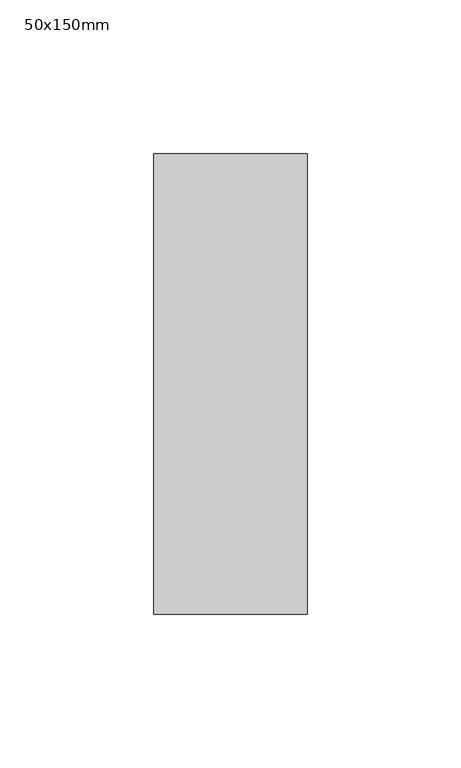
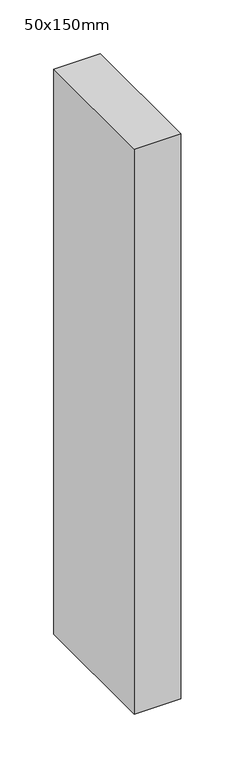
"""IFC4 building model written with IfcOpenShell, lengths in millimetres: member geometry, 長方形マリオン : 50x150mm."""

import ifcopenshell
import ifcopenshell.guid

model = None  # the IFC model being written
_history = None  # IfcOwnerHistory: only IFC2X3 demands one
_inside = {}  # id of a spatial element -> (the spatial element, [elements in it])
_under = {}  # id of a project, library or spatial element -> (it, [spatial elements below it])
_declared = {}  # id of a project -> (the project, [libraries it declares])
_typed = {}  # id of a type object -> (the type object, [elements of that type])
_made_of = {}  # id of a material, layer set ... -> (it, [elements and type objects made of it])


def new_model(schema):
    """Start an empty IFC model of exactly this schema.

    Asked for "IFC4X3", IfcOpenShell would pick the latest addendum, in which some entities
    have other attributes; the version numbers below select the first issue.
    IFC2X3 requires an IfcOwnerHistory on every rooted entity: one is made here for all.
    """
    global model, _history
    if schema == "IFC4X3":
        model = ifcopenshell.file(schema_version=(4, 3, 0, 0))
    else:
        model = ifcopenshell.file(schema=schema)
    _inside.clear()
    _under.clear()
    _declared.clear()
    _typed.clear()
    _made_of.clear()
    _history = None
    if model.schema == "IFC2X3":
        org = make("IfcOrganization", Name="unknown")
        user = make(
            "IfcPersonAndOrganization",
            ThePerson=make("IfcPerson", FamilyName="unknown"),
            TheOrganization=org,
        )
        app = make(
            "IfcApplication",
            ApplicationDeveloper=org,
            Version="unknown",
            ApplicationFullName="unknown",
            ApplicationIdentifier="unknown",
        )
        _history = make(
            "IfcOwnerHistory",
            OwningUser=user,
            OwningApplication=app,
            ChangeAction="ADDED",
            CreationDate=0,
        )
    return model


def make(cls, **values):
    """One entity of the class cls with the attributes given. An attribute that is None is left unset."""
    return model.create_entity(
        cls, **{name: value for name, value in values.items() if value is not None}
    )


def rooted(cls, **values):
    """An entity with a GlobalId (a new one), such as an element, a storey or a relation."""
    return make(cls, GlobalId=ifcopenshell.guid.new(), OwnerHistory=_history, **values)


def si_unit(unit_type, name, prefix=None):
    """IfcSIUnit, for example si_unit("LENGTHUNIT", "METRE", prefix="MILLI")."""
    return make("IfcSIUnit", UnitType=unit_type, Prefix=prefix, Name=name)


def assignment(units):
    """IfcUnitAssignment: the units of a project."""
    return None if units is None else make("IfcUnitAssignment", Units=units)


def point(xyz):
    """IfcCartesianPoint."""
    return None if xyz is None else make("IfcCartesianPoint", Coordinates=xyz)


def direction(xyz):
    """IfcDirection."""
    return None if xyz is None else make("IfcDirection", DirectionRatios=xyz)


def frame(location, z_axis=None, x_axis=None):
    """IfcAxis2Placement3D, a coordinate frame: its origin and axes. An axis left out is left unset."""
    return make(
        "IfcAxis2Placement3D",
        Location=point(location),
        Axis=direction(z_axis),
        RefDirection=direction(x_axis),
    )


def origin():
    """The frame at (0, 0, 0) with its axes left unset."""
    return frame((0.0, 0.0, 0.0))


def place(relative_to, where):
    """IfcLocalPlacement: puts the frame where relative to a parent placement (None: the world)."""
    return make(
        "IfcLocalPlacement", PlacementRelTo=relative_to, RelativePlacement=where
    )


def context(
    kind, dimensions, precision=None, world=None, true_north=None, identifier=None
):
    """IfcGeometricRepresentationContext, for example the 3D "Model" context."""
    return make(
        "IfcGeometricRepresentationContext",
        ContextIdentifier=identifier,
        ContextType=kind,
        CoordinateSpaceDimension=dimensions,
        Precision=precision,
        WorldCoordinateSystem=world,
        TrueNorth=true_north,
    )


def project(units=None, contexts=None):
    """IfcProject with its units and contexts."""
    return rooted(
        "IfcProject",
        Name="project",
        RepresentationContexts=contexts,
        UnitsInContext=assignment(units),
    )


def spatial(cls, under=None, at=None, **own):
    """A site, building, storey or space (cls), placed at a placement, below another one or the project."""
    s = rooted(cls, ObjectPlacement=at, **own)
    if under is not None:
        _under.setdefault(under.id(), (under, []))[1].append(s)
    return s


def polyline(points):
    """IfcPolyline through the points."""
    return make("IfcPolyline", Points=[point(p) for p in points])


def outline(outer, holes=None, kind="AREA"):
    """IfcArbitraryClosedProfileDef: a profile drawn as a closed curve; with holes, ...WithVoids."""
    if holes is None:
        return make("IfcArbitraryClosedProfileDef", ProfileType=kind, OuterCurve=outer)
    return make(
        "IfcArbitraryProfileDefWithVoids",
        ProfileType=kind,
        OuterCurve=outer,
        InnerCurves=holes,
    )


def extrude(swept, where, along, depth):
    """IfcExtrudedAreaSolid: the profile swept, set in the frame where, extruded along a direction by depth."""
    return make(
        "IfcExtrudedAreaSolid",
        SweptArea=swept,
        Position=where,
        ExtrudedDirection=direction(along),
        Depth=depth,
    )


def shape(context_of_items, identifier, shape_type, items):
    """IfcShapeRepresentation: the items that make up one representation, for example the "Body"."""
    return make(
        "IfcShapeRepresentation",
        ContextOfItems=context_of_items,
        RepresentationIdentifier=identifier,
        RepresentationType=shape_type,
        Items=items,
    )


def source(mapping_origin, context_of_items, identifier, shape_type, items):
    """IfcRepresentationMap: a shape defined once, which mapped items show again and again."""
    return make(
        "IfcRepresentationMap",
        MappingOrigin=mapping_origin,
        MappedRepresentation=shape(context_of_items, identifier, shape_type, items),
    )


def transform(
    local_origin,
    x_axis=None,
    y_axis=None,
    z_axis=None,
    scale=None,
    scale2=None,
    scale3=None,
    uniform=True,
):
    """IfcCartesianTransformationOperator3D, or its non-uniform kind. x_axis, y_axis, z_axis: its Axis1, 2, 3."""
    if uniform:
        return make(
            "IfcCartesianTransformationOperator3D",
            Axis1=direction(x_axis),
            Axis2=direction(y_axis),
            LocalOrigin=point(local_origin),
            Scale=scale,
            Axis3=direction(z_axis),
        )
    return make(
        "IfcCartesianTransformationOperator3DnonUniform",
        Axis1=direction(x_axis),
        Axis2=direction(y_axis),
        LocalOrigin=point(local_origin),
        Scale=scale,
        Axis3=direction(z_axis),
        Scale2=scale2,
        Scale3=scale3,
    )


def mapped(mapping_source, mapping_target):
    """IfcMappedItem: shows the shape of a source again, moved by a transform."""
    return make(
        "IfcMappedItem", MappingSource=mapping_source, MappingTarget=mapping_target
    )


def made_of(thing, what):
    """Note that an element or type object is made of a material, layer set ...; save() writes the relation."""
    if what is not None:
        _made_of.setdefault(what.id(), (what, []))[1].append(thing)
    return thing


def element(
    cls,
    number,
    at=None,
    inside=None,
    cuts=None,
    type_object=None,
    material=None,
    context=None,
    identifier="Body",
    shape_type=None,
    held_by="IfcProductDefinitionShape",
    body=None,
    shapes=None,
    **own,
):
    """One element of the class cls, such as IfcWall. Its Tag is "e" and its number.

    at: its placement. inside: the storey or other place that contains it. cuts: it is an
    opening in that element (IfcRelVoidsElement). A single representation is given by context,
    identifier, shape_type and body (its items); several are given by shapes. held_by: the class
    of the entity that holds the representations. save() writes the other relations.
    """
    e = rooted(cls, Tag="e%d" % number, ObjectPlacement=at, **own)
    if body is not None:
        shapes = [shape(context, identifier, shape_type, body)]
    if shapes is not None:
        e.Representation = make(held_by, Representations=shapes)
    if inside is not None:
        _inside.setdefault(inside.id(), (inside, []))[1].append(e)
    if cuts is not None:
        rooted(
            "IfcRelVoidsElement", RelatingBuildingElement=cuts, RelatedOpeningElement=e
        )
    if type_object is not None:
        _typed.setdefault(type_object.id(), (type_object, []))[1].append(e)
    return made_of(e, material)


def aggregate(whole, parts):
    """IfcRelAggregates: a whole, such as a stair, and the parts it consists of."""
    return rooted("IfcRelAggregates", RelatingObject=whole, RelatedObjects=parts)


def save(model, path):
    """Write the relations noted so far, then the file.

    IfcRelAggregates (storeys below a building ...), IfcRelContainedInSpatialStructure (elements
    in a storey), IfcRelDefinesByType, IfcRelAssociatesMaterial and IfcRelDeclares: one each for
    every whole, place, type object, material and project.
    """
    for whole, parts in _under.values():
        aggregate(whole, parts)
    for where, things in _inside.values():
        rooted(
            "IfcRelContainedInSpatialStructure",
            RelatedElements=things,
            RelatingStructure=where,
        )
    for kind, things in _typed.values():
        rooted("IfcRelDefinesByType", RelatedObjects=things, RelatingType=kind)
    for what, things in _made_of.values():
        rooted("IfcRelAssociatesMaterial", RelatedObjects=things, RelatingMaterial=what)
    for by, libraries in _declared.values():
        rooted("IfcRelDeclares", RelatingContext=by, RelatedDefinitions=libraries)
    model.write(path)


def member_50x150mm_a0e2e66f(model_context):
    return source(origin(), model_context, "Body", "SweptSolid", [
        extrude(outline(polyline([(0.0, 75.0), (0.0, -75.0), (-50.0, -75.0), (-50.0, 75.0), (0.0, 75.0)])), frame((0.0, 0.0, -641.6666667), z_axis=(0.0, 0.0, 1.0), x_axis=(1.0, 0.0, 0.0)), (0.0, 0.0, 1.0), 641.6666667),
    ])


if __name__ == "__main__":
    model = new_model("IFC4")
    model_context = context("Model", 3, world=origin())
    ifc_project = project(units=[si_unit("LENGTHUNIT", "METRE", prefix="MILLI")], contexts=[model_context])
    site = spatial("IfcSite", under=ifc_project)
    building = spatial("IfcBuilding", under=site)
    placement = place(None, origin())
    member_50x150mm_shape = member_50x150mm_a0e2e66f(model_context)
    element("IfcMember", 1, ObjectType="長方形マリオン : 50x150mm", at=placement, inside=building, context=model_context, shape_type="MappedRepresentation", body=[
        mapped(member_50x150mm_shape, transform((0.0, 0.0, 0.0), x_axis=(1.0, 0.0, 0.0), y_axis=(0.0, 1.0, 0.0), z_axis=(0.0, 0.0, 1.0))),
    ])
    save(model, "model.ifc")
